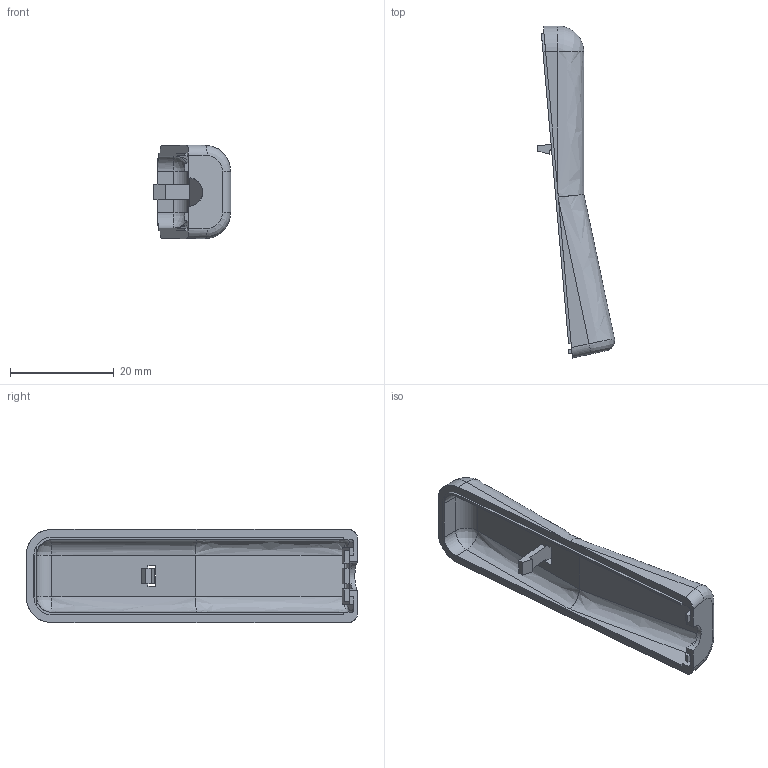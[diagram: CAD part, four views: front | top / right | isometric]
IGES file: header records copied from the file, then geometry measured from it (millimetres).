
Global section: file name: Filename.iges; native system: Open CASCADE 7.5; preprocessor: Open CASCADE IGES processor 7.5; date: 20210414.164134; units: millimetre
Bounding box: 14.91 x 64.05 x 18 mm (x, y, z)
Surface area: 3753 mm2 (no closed solid volume)
Topology: 0 solids, 0 shells, 93 faces, 502 edges, 502 vertices
Faces by surface type: bspline 61, revolution 32
